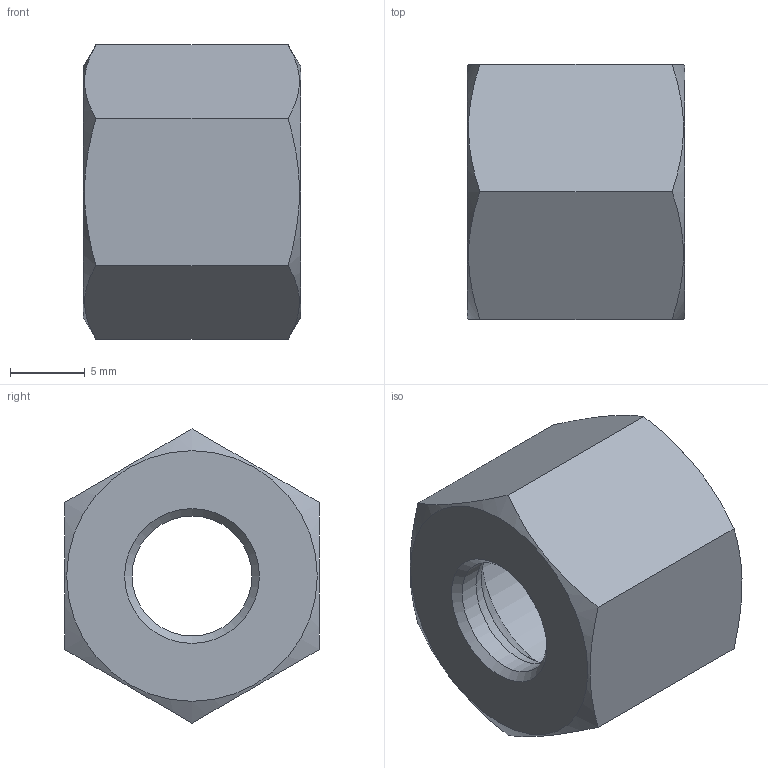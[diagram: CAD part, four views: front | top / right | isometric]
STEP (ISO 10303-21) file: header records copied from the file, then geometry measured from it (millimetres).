
FILE_DESCRIPTION( ( 'Unknown' ), '1' );
FILE_NAME( 'C:/Users/p.nanko/Desktop/3D SR/M08L.stp', 'Unknown', ( 'Peter Nanko' ), ( 'Armaturen Arndt' ), 'PSStep 14.0', 'Solid Edge ST4', ' ' );
FILE_SCHEMA( ( 'AUTOMOTIVE_DESIGN { 1 0 10303 214 1 1 1 1 }' ) );
Length unit declared in the file: millimetre
Products named in the file (1): 1
Bounding box: 14.5 x 17 x 19.63 mm (x, y, z)
Volume: 2103.4 mm3; surface area: 1679.9 mm2
Topology: 1 solids, 1 shells, 17 faces, 39 edges, 24 vertices
Faces by surface type: plane 8, cone 6, cylinder 3
Full cylindrical faces by diameter (mm): 8 x1, 12.376 x2
Entity records: 668 total; most frequent: CARTESIAN_POINT 192, DIRECTION 62, ORIENTED_EDGE 56, AXIS2_PLACEMENT_3D 28, EDGE_LOOP 28, EDGE_CURVE 28, VERTEX_POINT 22, FACE_OUTER_BOUND 20
